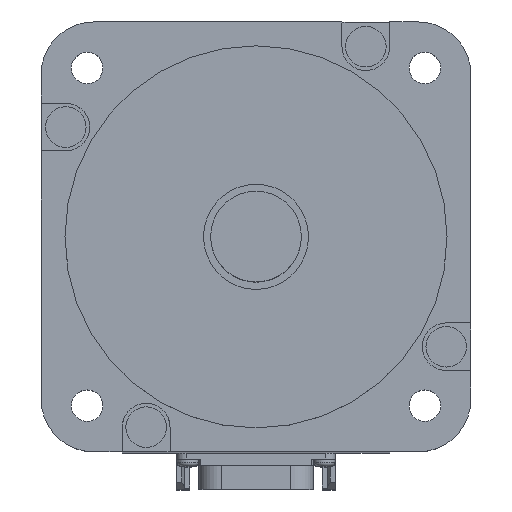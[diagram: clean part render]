
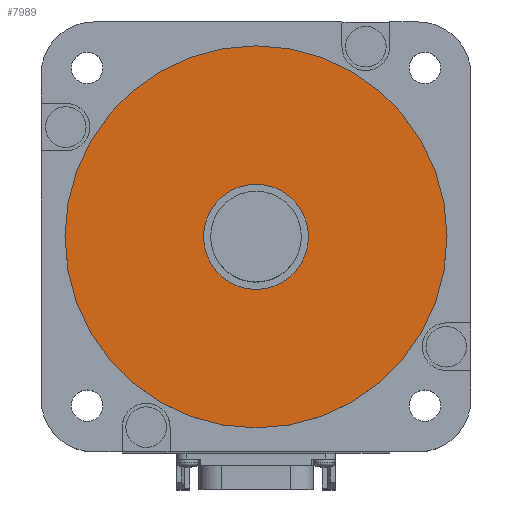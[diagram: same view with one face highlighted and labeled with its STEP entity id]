
A CAD part, top view. The second image highlights one B-rep face of the part: STEP entity #7989.
In plain terms, the highlighted planar face has unit normal (0, 0, 1).
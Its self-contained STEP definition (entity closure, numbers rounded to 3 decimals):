
#1730=CARTESIAN_POINT('',(0.,0.,3.));
#1731=DIRECTION('',(0.,0.,-1.));
#1732=DIRECTION('',(1.,0.,0.));
#1733=AXIS2_PLACEMENT_3D('',#1730,#1731,#1732);
#1735=CARTESIAN_POINT('',(0.,0.,3.));
#1736=DIRECTION('',(0.,0.,-1.));
#1737=DIRECTION('',(-1.,0.,0.));
#1738=AXIS2_PLACEMENT_3D('',#1735,#1736,#1737);
#1740=CARTESIAN_POINT('',(0.,0.,3.));
#1741=DIRECTION('',(0.,0.,1.));
#1742=DIRECTION('',(1.,0.,0.));
#1743=AXIS2_PLACEMENT_3D('',#1740,#1741,#1742);
#1745=CARTESIAN_POINT('',(0.,0.,3.));
#1746=DIRECTION('',(0.,0.,1.));
#1747=DIRECTION('',(-1.,0.,0.));
#1748=AXIS2_PLACEMENT_3D('',#1745,#1746,#1747);
#4532=CARTESIAN_POINT('',(40.,0.,3.));
#4533=VERTEX_POINT('',#4532);
#4534=CARTESIAN_POINT('',(-40.,0.,3.));
#4535=VERTEX_POINT('',#4534);
#5596=CARTESIAN_POINT('',(11.,0.,3.));
#5597=CARTESIAN_POINT('',(-11.,0.,3.));
#5598=VERTEX_POINT('',#5596);
#5599=VERTEX_POINT('',#5597);
#7973=CARTESIAN_POINT('',(0.,0.,3.));
#7974=DIRECTION('',(0.,0.,1.));
#7975=DIRECTION('',(1.,0.,0.));
#7976=AXIS2_PLACEMENT_3D('',#7973,#7974,#7975);
#7977=PLANE('',#7976);
#7978=ORIENTED_EDGE('',*,*,#7963,.T.);
#7980=ORIENTED_EDGE('',*,*,#7979,.T.);
#7981=EDGE_LOOP('',(#7978,#7980));
#7982=FACE_OUTER_BOUND('',#7981,.F.);
#7984=ORIENTED_EDGE('',*,*,#7983,.T.);
#7986=ORIENTED_EDGE('',*,*,#7985,.T.);
#7987=EDGE_LOOP('',(#7984,#7986));
#7988=FACE_BOUND('',#7987,.F.);
#7989=ADVANCED_FACE('',(#7982,#7988),#7977,.T.);
#1734=CIRCLE('',#1733,40.);
#1739=CIRCLE('',#1738,40.);
#1744=CIRCLE('',#1743,11.);
#1749=CIRCLE('',#1748,11.);
#7963=EDGE_CURVE('',#4533,#4535,#1734,.T.);
#7979=EDGE_CURVE('',#4535,#4533,#1739,.T.);
#7983=EDGE_CURVE('',#5598,#5599,#1744,.T.);
#7985=EDGE_CURVE('',#5599,#5598,#1749,.T.);
